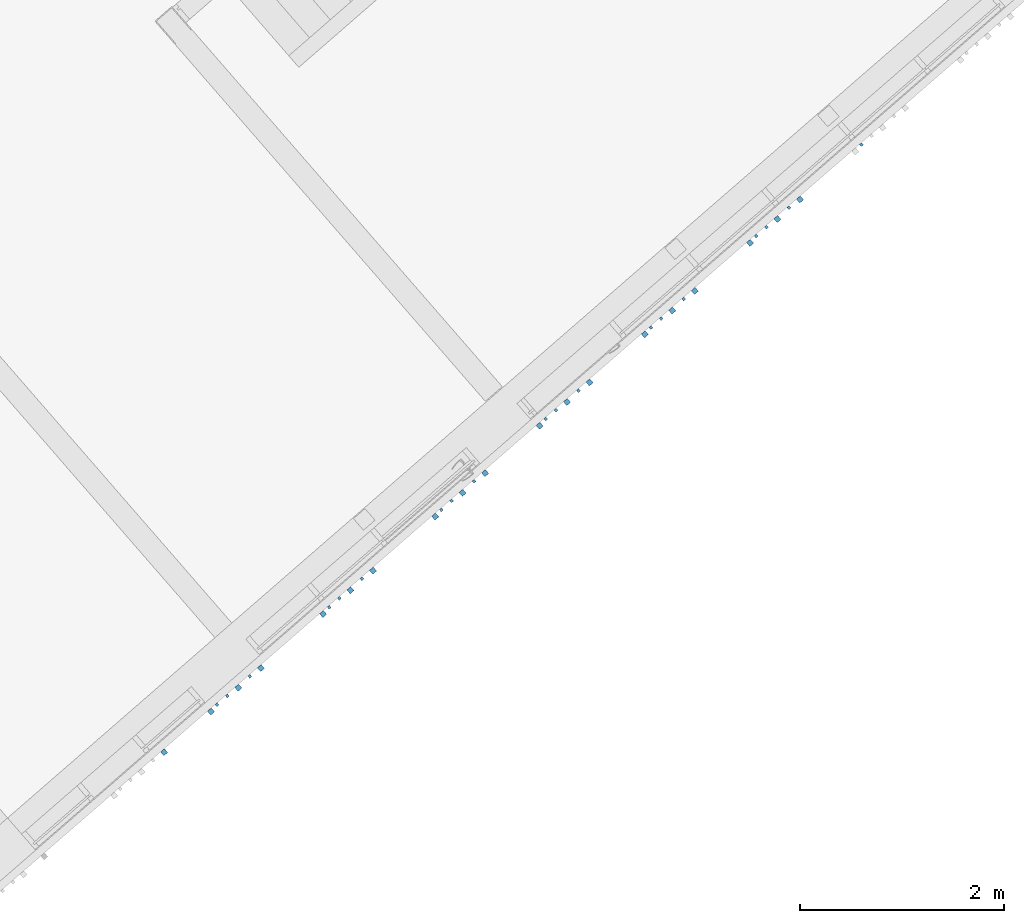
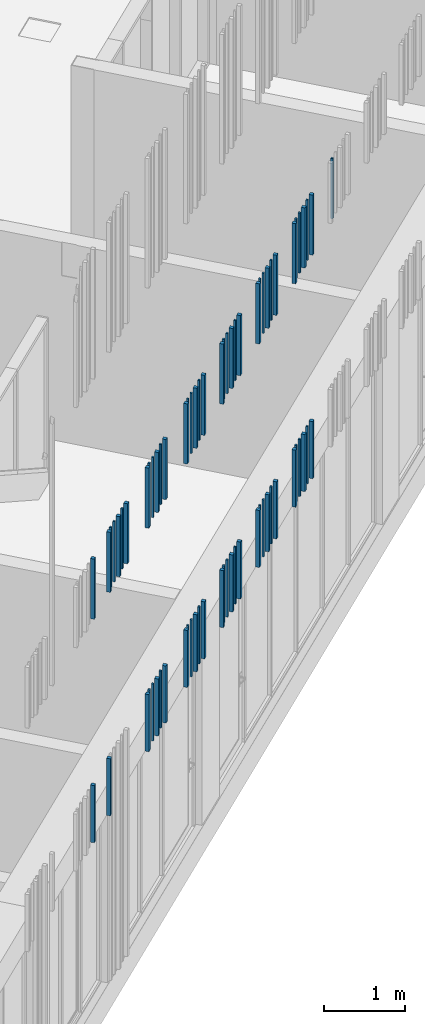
# One storey, part 96 of 124: 70 walls.
"""IFC2X3 building model written with IfcOpenShell, lengths in millimetres."""

from ifc_helpers import new_model, entity, si_unit, converted_unit, derived_unit, money_unit, direction, frame, origin_with_axes, place, context, subcontext, project, spatial, faceted_brep, material, type_object, element, save


model = new_model("IFC2X3")

# Units and contexts
model_context = context("Model", 3, precision=1e-05, world=origin_with_axes(), true_north=direction((0.0, 1.0)))
body_context = subcontext(model_context, "Body", "Model", "MODEL_VIEW")
ifc_project = project(units=[si_unit("LENGTHUNIT", "METRE", prefix="MILLI"), si_unit("AREAUNIT", "SQUARE_METRE"), si_unit("VOLUMEUNIT", "CUBIC_METRE"), converted_unit("PLANEANGLEUNIT", "DEGREE", entity("IfcPlaneAngleMeasure", 0.0174532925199), si_unit("PLANEANGLEUNIT", "RADIAN"), dimensions=[0, 0, 0, 0, 0, 0, 0]), si_unit("SOLIDANGLEUNIT", "STERADIAN"), money_unit("EUR"), converted_unit("TIMEUNIT", "Year", entity("IfcTimeMeasure", 31556926.0), si_unit("TIMEUNIT", "SECOND"), dimensions=[0, 0, 1, 0, 0, 0, 0]), si_unit("MASSUNIT", "GRAM", prefix="KILO"), si_unit("THERMODYNAMICTEMPERATUREUNIT", "DEGREE_CELSIUS"), si_unit("LUMINOUSINTENSITYUNIT", "LUMEN"), si_unit("ENERGYUNIT", "JOULE", prefix="MEGA"), derived_unit("THERMALCONDUCTANCEUNIT", [(si_unit("POWERUNIT", "WATT"), 1), (si_unit("LENGTHUNIT", "METRE"), -1), (si_unit("THERMODYNAMICTEMPERATUREUNIT", "KELVIN"), -1)]), derived_unit("SPECIFICHEATCAPACITYUNIT", [(si_unit("ENERGYUNIT", "JOULE"), 1), (si_unit("MASSUNIT", "GRAM", prefix="KILO"), -1), (si_unit("THERMODYNAMICTEMPERATUREUNIT", "KELVIN"), -1)]), derived_unit("MASSDENSITYUNIT", [(si_unit("MASSUNIT", "GRAM", prefix="KILO"), 1), (si_unit("VOLUMEUNIT", "CUBIC_METRE"), -1)])], contexts=[model_context])

# Site, building, storey
site_placement = place(None, origin_with_axes())
site = spatial("IfcSite", under=ifc_project, at=site_placement, Name="Site", CompositionType="ELEMENT")
building_placement = place(site_placement, origin_with_axes())
building = spatial("IfcBuilding", under=site, at=building_placement, Name="Building", CompositionType="ELEMENT")
storey_placement = place(building_placement, frame((0.0, 0.0, -1615.0), z_axis=(0.0, 0.0, 1.0), x_axis=(1.0, 0.0, 0.0)))
storey = spatial("IfcBuildingStorey", under=building, at=storey_placement, Name="0  korrus", CompositionType="ELEMENT", Elevation=-1615.0)

# Walls
ifc_material = material(Name="Site specified")
wall_type = type_object("IfcWallType", Name="Puitfassaadi ribistik", PredefinedType="NOTDEFINED")
wall_1_placement = place(storey_placement, frame((161342.748186, 84898.3030388, 5915.0), z_axis=(0.0, 0.0, 1.0), x_axis=(-0.754709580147, -0.656059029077, 0.0)))
element("IfcWall", 1, at=wall_1_placement, inside=storey, type_object=wall_type, material=ifc_material, Name="Site specified", context=body_context, shape_type="Brep", body=[
    faceted_brep([(14.0, 14.0, 906.0), (14.0, 14.0, 0.0), (-14.0, 14.0, 0.0), (-14.0, 14.0, 906.0), (14.0, -14.0, 906.0), (14.0, -14.0, 0.0), (-14.0, -14.0, 0.0), (-14.0, -14.0, 906.0)], [[[0, 1, 2, 3]], [[4, 5, 1, 0]], [[2, 1, 5, 6]], [[3, 2, 6, 7]], [[4, 0, 3, 7]], [[7, 6, 5, 4]]]),
])
for number, where, z_axis, x_axis, name in (
    (2, (160517.522027, 84166.3697402, 5915.0), (0.0, 0.0, 1.0), (-0.754709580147, -0.656059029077, 0.0), "Site specified"),
    (3, (160248.841165, 83932.8090301, 5915.0), (0.0, 0.0, 1.0), (-0.754709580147, -0.656059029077, 0.0), "Site specified"),
):
    element("IfcWall", number, at=place(storey_placement, frame(where, z_axis=z_axis, x_axis=x_axis)), inside=storey, type_object=wall_type, material=ifc_material, Name=name, context=body_context, shape_type="Brep", body=[
        faceted_brep([(25.0, 25.0, 906.0), (25.0, 25.0, 0.0), (-25.0, 25.0, 0.0), (-25.0, 25.0, 906.0), (25.0, -25.0, 906.0), (25.0, -25.0, 0.0), (-25.0, -25.0, 0.0), (-25.0, -25.0, 906.0)], [[[0, 1, 2, 3]], [[4, 5, 1, 0]], [[2, 1, 5, 6]], [[3, 2, 6, 7]], [[4, 0, 3, 7]], [[7, 6, 5, 4]]]),
    ])
for number, where, z_axis, x_axis, name in (
    (4, (160409.172435, 84086.7580194, 5915.0), (0.0, 0.0, 1.0), (-0.754709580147, -0.656059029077, 0.0), "Site specified"),
    (5, (160308.796061, 83999.502169, 5915.0), (0.0, 0.0, 1.0), (-0.754709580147, -0.656059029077, 0.0), "Site specified"),
    (6, (160630.30232, 84278.9832959, 5915.0), (0.0, 0.0, 1.0), (-0.754709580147, -0.656059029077, 0.0), "Site specified"),
):
    element("IfcWall", number, at=place(storey_placement, frame(where, z_axis=z_axis, x_axis=x_axis)), inside=storey, type_object=wall_type, material=ifc_material, Name=name, context=body_context, shape_type="Brep", body=[
        faceted_brep([(14.0, 14.0, 906.0), (14.0, 14.0, 0.0), (-14.0, 14.0, 0.0), (-14.0, 14.0, 906.0), (14.0, -14.0, 906.0), (14.0, -14.0, 0.0), (-14.0, -14.0, 0.0), (-14.0, -14.0, 906.0)], [[[0, 1, 2, 3]], [[4, 5, 1, 0]], [[2, 1, 5, 6]], [[3, 2, 6, 7]], [[4, 0, 3, 7]], [[7, 6, 5, 4]]]),
    ])
for number, where, z_axis, x_axis, name in (
    (7, (160517.522027, 84166.3697402, 2550.00001878), (0.0, 0.0, 1.0), (-0.754709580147, -0.656059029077, 0.0), "Site specified"),
    (8, (160248.841165, 83932.8090301, 2550.00001878), (0.0, 0.0, 1.0), (-0.754709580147, -0.656059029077, 0.0), "Site specified"),
):
    element("IfcWall", number, at=place(storey_placement, frame(where, z_axis=z_axis, x_axis=x_axis)), inside=storey, type_object=wall_type, material=ifc_material, Name=name, context=body_context, shape_type="Brep", body=[
        faceted_brep([(25.0, 25.0, 860.0), (25.0, 25.0, 0.0), (-25.0, 25.0, 0.0), (-25.0, 25.0, 860.0), (25.0, -25.0, 860.0), (25.0, -25.0, 0.0), (-25.0, -25.0, 0.0), (-25.0, -25.0, 860.0)], [[[0, 1, 2, 3]], [[4, 5, 1, 0]], [[2, 1, 5, 6]], [[3, 2, 6, 7]], [[4, 0, 3, 7]], [[7, 6, 5, 4]]]),
    ])
for number, where, z_axis, x_axis, name in (
    (9, (160409.172435, 84086.7580194, 2550.00001878), (0.0, 0.0, 1.0), (-0.754709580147, -0.656059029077, 0.0), "Site specified"),
    (10, (160308.796061, 83999.502169, 2550.00001878), (0.0, 0.0, 1.0), (-0.754709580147, -0.656059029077, 0.0), "Site specified"),
    (11, (160630.30232, 84278.9832959, 2550.00001878), (0.0, 0.0, 1.0), (-0.754709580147, -0.656059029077, 0.0), "Site specified"),
):
    element("IfcWall", number, at=place(storey_placement, frame(where, z_axis=z_axis, x_axis=x_axis)), inside=storey, type_object=wall_type, material=ifc_material, Name=name, context=body_context, shape_type="Brep", body=[
        faceted_brep([(14.0, 14.0, 860.0), (14.0, 14.0, 0.0), (-14.0, 14.0, 0.0), (-14.0, 14.0, 860.0), (14.0, -14.0, 860.0), (14.0, -14.0, 0.0), (-14.0, -14.0, 0.0), (-14.0, -14.0, 860.0)], [[[0, 1, 2, 3]], [[4, 5, 1, 0]], [[2, 1, 5, 6]], [[3, 2, 6, 7]], [[4, 0, 3, 7]], [[7, 6, 5, 4]]]),
    ])
wall_2_placement = place(storey_placement, frame((160739.406642, 84359.2510933, 2550.00001878), z_axis=(0.0, 0.0, 1.0), x_axis=(-0.754709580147, -0.656059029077, 0.0)))
element("IfcWall", 12, at=wall_2_placement, inside=storey, type_object=wall_type, material=ifc_material, Name="Site specified", context=body_context, shape_type="Brep", body=[
    faceted_brep([(25.0, 25.0, 860.0), (25.0, 25.0, 0.0), (-25.0, 25.0, 0.0), (-25.0, 25.0, 860.0), (25.0, -25.0, 860.0), (25.0, -25.0, 0.0), (-25.0, -25.0, 0.0), (-25.0, -25.0, 860.0)], [[[0, 1, 2, 3]], [[4, 5, 1, 0]], [[2, 1, 5, 6]], [[3, 2, 6, 7]], [[4, 0, 3, 7]], [[7, 6, 5, 4]]]),
])
for number, where, z_axis, x_axis, name in (
    (13, (160739.406642, 84359.2510933, 5915.0), (0.0, 0.0, 1.0), (-0.754709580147, -0.656059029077, 0.0), "Site specified"),
    (14, (159214.88904, 83034.0081603, 5915.0), (0.0, 0.0, 1.0), (-0.754709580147, -0.656059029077, 0.0), "Site specified"),
):
    element("IfcWall", number, at=place(storey_placement, frame(where, z_axis=z_axis, x_axis=x_axis)), inside=storey, type_object=wall_type, material=ifc_material, Name=name, context=body_context, shape_type="Brep", body=[
        faceted_brep([(25.0, 25.0, 906.0), (25.0, 25.0, 0.0), (-25.0, 25.0, 0.0), (-25.0, 25.0, 906.0), (25.0, -25.0, 906.0), (25.0, -25.0, 0.0), (-25.0, -25.0, 0.0), (-25.0, -25.0, 906.0)], [[[0, 1, 2, 3]], [[4, 5, 1, 0]], [[2, 1, 5, 6]], [[3, 2, 6, 7]], [[4, 0, 3, 7]], [[7, 6, 5, 4]]]),
    ])
for number, where, z_axis, x_axis, name in (
    (15, (159375.22031, 83187.9571495, 5915.0), (0.0, 0.0, 1.0), (-0.754709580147, -0.656059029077, 0.0), "Site specified"),
    (16, (159274.843936, 83100.7012992, 5915.0), (0.0, 0.0, 1.0), (-0.754709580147, -0.656059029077, 0.0), "Site specified"),
    (17, (159596.350195, 83380.1824261, 5915.0), (0.0, 0.0, 1.0), (-0.754709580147, -0.656059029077, 0.0), "Site specified"),
):
    element("IfcWall", number, at=place(storey_placement, frame(where, z_axis=z_axis, x_axis=x_axis)), inside=storey, type_object=wall_type, material=ifc_material, Name=name, context=body_context, shape_type="Brep", body=[
        faceted_brep([(14.0, 14.0, 906.0), (14.0, 14.0, 0.0), (-14.0, 14.0, 0.0), (-14.0, 14.0, 906.0), (14.0, -14.0, 906.0), (14.0, -14.0, 0.0), (-14.0, -14.0, 0.0), (-14.0, -14.0, 906.0)], [[[0, 1, 2, 3]], [[4, 5, 1, 0]], [[2, 1, 5, 6]], [[3, 2, 6, 7]], [[4, 0, 3, 7]], [[7, 6, 5, 4]]]),
    ])
wall_3_placement = place(storey_placement, frame((159705.454517, 83460.4502235, 5915.0), z_axis=(0.0, 0.0, 1.0), x_axis=(-0.754709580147, -0.656059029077, 0.0)))
element("IfcWall", 18, at=wall_3_placement, inside=storey, type_object=wall_type, material=ifc_material, Name="Site specified", context=body_context, shape_type="Brep", body=[
    faceted_brep([(25.0, 25.0, 906.0), (25.0, 25.0, 0.0), (-25.0, 25.0, 0.0), (-25.0, 25.0, 906.0), (25.0, -25.0, 906.0), (25.0, -25.0, 0.0), (-25.0, -25.0, 0.0), (-25.0, -25.0, 906.0)], [[[0, 1, 2, 3]], [[4, 5, 1, 0]], [[2, 1, 5, 6]], [[3, 2, 6, 7]], [[4, 0, 3, 7]], [[7, 6, 5, 4]]]),
])
wall_4_placement = place(storey_placement, frame((159483.569902, 83267.5688704, 2550.00001878), z_axis=(0.0, 0.0, 1.0), x_axis=(-0.754709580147, -0.656059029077, 0.0)))
element("IfcWall", 19, at=wall_4_placement, inside=storey, type_object=wall_type, material=ifc_material, Name="Site specified", context=body_context, shape_type="Brep", body=[
    faceted_brep([(25.0, 25.0, 860.0), (25.0, 25.0, 0.0), (-25.0, 25.0, 0.0), (-25.0, 25.0, 860.0), (25.0, -25.0, 860.0), (25.0, -25.0, 0.0), (-25.0, -25.0, 0.0), (-25.0, -25.0, 860.0)], [[[0, 1, 2, 3]], [[4, 5, 1, 0]], [[2, 1, 5, 6]], [[3, 2, 6, 7]], [[4, 0, 3, 7]], [[7, 6, 5, 4]]]),
])
for number, where, z_axis, x_axis, name in (
    (20, (156434.117052, 80631.2950921, 2550.00001878), (0.0, 0.0, 1.0), (-0.754709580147, -0.656059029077, 0.0), "Site specified"),
    (21, (156112.610793, 80351.8139652, 2550.00001878), (0.0, 0.0, 1.0), (-0.754709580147, -0.656059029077, 0.0), "Site specified"),
    (22, (156212.987166, 80439.0698155, 2550.00001878), (0.0, 0.0, 1.0), (-0.754709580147, -0.656059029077, 0.0), "Site specified"),
):
    element("IfcWall", number, at=place(storey_placement, frame(where, z_axis=z_axis, x_axis=x_axis)), inside=storey, type_object=wall_type, material=ifc_material, Name=name, context=body_context, shape_type="Brep", body=[
        faceted_brep([(14.0, 14.0, 860.0), (14.0, 14.0, 0.0), (-14.0, 14.0, 0.0), (-14.0, 14.0, 860.0), (14.0, -14.0, 860.0), (14.0, -14.0, 0.0), (-14.0, -14.0, 0.0), (-14.0, -14.0, 860.0)], [[[0, 1, 2, 3]], [[4, 5, 1, 0]], [[2, 1, 5, 6]], [[3, 2, 6, 7]], [[4, 0, 3, 7]], [[7, 6, 5, 4]]]),
    ])
for number, where, z_axis, x_axis, name in (
    (23, (156052.655897, 80285.1208262, 2550.00001878), (0.0, 0.0, 1.0), (-0.754709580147, -0.656059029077, 0.0), "Site specified"),
    (24, (156321.336759, 80518.6815364, 2550.00001878), (0.0, 0.0, 1.0), (-0.754709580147, -0.656059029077, 0.0), "Site specified"),
):
    element("IfcWall", number, at=place(storey_placement, frame(where, z_axis=z_axis, x_axis=x_axis)), inside=storey, type_object=wall_type, material=ifc_material, Name=name, context=body_context, shape_type="Brep", body=[
        faceted_brep([(25.0, 25.0, 860.0), (25.0, 25.0, 0.0), (-25.0, 25.0, 0.0), (-25.0, 25.0, 860.0), (25.0, -25.0, 860.0), (25.0, -25.0, 0.0), (-25.0, -25.0, 0.0), (-25.0, -25.0, 860.0)], [[[0, 1, 2, 3]], [[4, 5, 1, 0]], [[2, 1, 5, 6]], [[3, 2, 6, 7]], [[4, 0, 3, 7]], [[7, 6, 5, 4]]]),
    ])
wall_5_placement = place(storey_placement, frame((156543.221374, 80711.5628895, 5915.0), z_axis=(0.0, 0.0, 1.0), x_axis=(-0.754709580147, -0.656059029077, 0.0)))
element("IfcWall", 25, at=wall_5_placement, inside=storey, type_object=wall_type, material=ifc_material, Name="Site specified", context=body_context, shape_type="Brep", body=[
    faceted_brep([(25.0, 25.0, 906.0), (25.0, 25.0, 0.0), (-25.0, 25.0, 0.0), (-25.0, 25.0, 906.0), (25.0, -25.0, 906.0), (25.0, -25.0, 0.0), (-25.0, -25.0, 0.0), (-25.0, -25.0, 906.0)], [[[0, 1, 2, 3]], [[4, 5, 1, 0]], [[2, 1, 5, 6]], [[3, 2, 6, 7]], [[4, 0, 3, 7]], [[7, 6, 5, 4]]]),
])
for number, where, z_axis, x_axis, name in (
    (26, (156434.117052, 80631.2950921, 5915.0), (0.0, 0.0, 1.0), (-0.754709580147, -0.656059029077, 0.0), "Site specified"),
    (27, (156112.610793, 80351.8139652, 5915.0), (0.0, 0.0, 1.0), (-0.754709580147, -0.656059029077, 0.0), "Site specified"),
    (28, (156212.987166, 80439.0698155, 5915.0), (0.0, 0.0, 1.0), (-0.754709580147, -0.656059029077, 0.0), "Site specified"),
):
    element("IfcWall", number, at=place(storey_placement, frame(where, z_axis=z_axis, x_axis=x_axis)), inside=storey, type_object=wall_type, material=ifc_material, Name=name, context=body_context, shape_type="Brep", body=[
        faceted_brep([(14.0, 14.0, 906.0), (14.0, 14.0, 0.0), (-14.0, 14.0, 0.0), (-14.0, 14.0, 906.0), (14.0, -14.0, 906.0), (14.0, -14.0, 0.0), (-14.0, -14.0, 0.0), (-14.0, -14.0, 906.0)], [[[0, 1, 2, 3]], [[4, 5, 1, 0]], [[2, 1, 5, 6]], [[3, 2, 6, 7]], [[4, 0, 3, 7]], [[7, 6, 5, 4]]]),
    ])
for number, where, z_axis, x_axis, name in (
    (29, (156052.655897, 80285.1208262, 5915.0), (0.0, 0.0, 1.0), (-0.754709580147, -0.656059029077, 0.0), "Site specified"),
    (30, (156321.336759, 80518.6815364, 5915.0), (0.0, 0.0, 1.0), (-0.754709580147, -0.656059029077, 0.0), "Site specified"),
):
    element("IfcWall", number, at=place(storey_placement, frame(where, z_axis=z_axis, x_axis=x_axis)), inside=storey, type_object=wall_type, material=ifc_material, Name=name, context=body_context, shape_type="Brep", body=[
        faceted_brep([(25.0, 25.0, 906.0), (25.0, 25.0, 0.0), (-25.0, 25.0, 0.0), (-25.0, 25.0, 906.0), (25.0, -25.0, 906.0), (25.0, -25.0, 0.0), (-25.0, -25.0, 0.0), (-25.0, -25.0, 906.0)], [[[0, 1, 2, 3]], [[4, 5, 1, 0]], [[2, 1, 5, 6]], [[3, 2, 6, 7]], [[4, 0, 3, 7]], [[7, 6, 5, 4]]]),
    ])
for number, where, z_axis, x_axis, name in (
    (31, (157645.097363, 81669.4090742, 2550.00001878), (0.0, 0.0, 1.0), (-0.754709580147, -0.656059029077, 0.0), "Site specified"),
    (32, (157154.531886, 81242.967011, 2550.00001878), (0.0, 0.0, 1.0), (-0.754709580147, -0.656059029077, 0.0), "Site specified"),
):
    element("IfcWall", number, at=place(storey_placement, frame(where, z_axis=z_axis, x_axis=x_axis)), inside=storey, type_object=wall_type, material=ifc_material, Name=name, context=body_context, shape_type="Brep", body=[
        faceted_brep([(25.0, 25.0, 860.0), (25.0, 25.0, 0.0), (-25.0, 25.0, 0.0), (-25.0, 25.0, 860.0), (25.0, -25.0, 860.0), (25.0, -25.0, 0.0), (-25.0, -25.0, 0.0), (-25.0, -25.0, 860.0)], [[[0, 1, 2, 3]], [[4, 5, 1, 0]], [[2, 1, 5, 6]], [[3, 2, 6, 7]], [[4, 0, 3, 7]], [[7, 6, 5, 4]]]),
    ])
for number, where, z_axis, x_axis, name in (
    (33, (157535.993041, 81589.1412768, 2550.00001878), (0.0, 0.0, 1.0), (-0.754709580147, -0.656059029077, 0.0), "Site specified"),
    (34, (157314.863156, 81396.9160002, 2550.00001878), (0.0, 0.0, 1.0), (-0.754709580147, -0.656059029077, 0.0), "Site specified"),
    (35, (157214.486783, 81309.6601499, 2550.00001878), (0.0, 0.0, 1.0), (-0.754709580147, -0.656059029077, 0.0), "Site specified"),
):
    element("IfcWall", number, at=place(storey_placement, frame(where, z_axis=z_axis, x_axis=x_axis)), inside=storey, type_object=wall_type, material=ifc_material, Name=name, context=body_context, shape_type="Brep", body=[
        faceted_brep([(14.0, 14.0, 860.0), (14.0, 14.0, 0.0), (-14.0, 14.0, 0.0), (-14.0, 14.0, 860.0), (14.0, -14.0, 860.0), (14.0, -14.0, 0.0), (-14.0, -14.0, 0.0), (-14.0, -14.0, 860.0)], [[[0, 1, 2, 3]], [[4, 5, 1, 0]], [[2, 1, 5, 6]], [[3, 2, 6, 7]], [[4, 0, 3, 7]], [[7, 6, 5, 4]]]),
    ])
wall_6_placement = place(storey_placement, frame((157423.212749, 81476.5277211, 2550.00001878), z_axis=(0.0, 0.0, 1.0), x_axis=(-0.754709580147, -0.656059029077, 0.0)))
element("IfcWall", 36, at=wall_6_placement, inside=storey, type_object=wall_type, material=ifc_material, Name="Site specified", context=body_context, shape_type="Brep", body=[
    faceted_brep([(25.0, 25.0, 860.0), (25.0, 25.0, 0.0), (-25.0, 25.0, 0.0), (-25.0, 25.0, 860.0), (25.0, -25.0, 860.0), (25.0, -25.0, 0.0), (-25.0, -25.0, 0.0), (-25.0, -25.0, 860.0)], [[[0, 1, 2, 3]], [[4, 5, 1, 0]], [[2, 1, 5, 6]], [[3, 2, 6, 7]], [[4, 0, 3, 7]], [[7, 6, 5, 4]]]),
])
wall_7_placement = place(storey_placement, frame((157645.097363, 81669.4090742, 5915.0), z_axis=(0.0, 0.0, 1.0), x_axis=(-0.754709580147, -0.656059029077, 0.0)))
element("IfcWall", 37, at=wall_7_placement, inside=storey, type_object=wall_type, material=ifc_material, Name="Site specified", context=body_context, shape_type="Brep", body=[
    faceted_brep([(25.0, 25.0, 906.0), (25.0, 25.0, 0.0), (-25.0, 25.0, 0.0), (-25.0, 25.0, 906.0), (25.0, -25.0, 906.0), (25.0, -25.0, 0.0), (-25.0, -25.0, 0.0), (-25.0, -25.0, 906.0)], [[[0, 1, 2, 3]], [[4, 5, 1, 0]], [[2, 1, 5, 6]], [[3, 2, 6, 7]], [[4, 0, 3, 7]], [[7, 6, 5, 4]]]),
])
for number, where, z_axis, x_axis, name in (
    (38, (157535.993041, 81589.1412768, 5915.0), (0.0, 0.0, 1.0), (-0.754709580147, -0.656059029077, 0.0), "Site specified"),
    (39, (157214.486783, 81309.6601499, 5915.0), (0.0, 0.0, 1.0), (-0.754709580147, -0.656059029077, 0.0), "Site specified"),
    (40, (157314.863156, 81396.9160002, 5915.0), (0.0, 0.0, 1.0), (-0.754709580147, -0.656059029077, 0.0), "Site specified"),
):
    element("IfcWall", number, at=place(storey_placement, frame(where, z_axis=z_axis, x_axis=x_axis)), inside=storey, type_object=wall_type, material=ifc_material, Name=name, context=body_context, shape_type="Brep", body=[
        faceted_brep([(14.0, 14.0, 906.0), (14.0, 14.0, 0.0), (-14.0, 14.0, 0.0), (-14.0, 14.0, 906.0), (14.0, -14.0, 906.0), (14.0, -14.0, 0.0), (-14.0, -14.0, 0.0), (-14.0, -14.0, 906.0)], [[[0, 1, 2, 3]], [[4, 5, 1, 0]], [[2, 1, 5, 6]], [[3, 2, 6, 7]], [[4, 0, 3, 7]], [[7, 6, 5, 4]]]),
    ])
for number, where, z_axis, x_axis, name in (
    (41, (157154.531886, 81242.967011, 5915.0), (0.0, 0.0, 1.0), (-0.754709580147, -0.656059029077, 0.0), "Site specified"),
    (42, (157423.212749, 81476.5277211, 5915.0), (0.0, 0.0, 1.0), (-0.754709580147, -0.656059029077, 0.0), "Site specified"),
):
    element("IfcWall", number, at=place(storey_placement, frame(where, z_axis=z_axis, x_axis=x_axis)), inside=storey, type_object=wall_type, material=ifc_material, Name=name, context=body_context, shape_type="Brep", body=[
        faceted_brep([(25.0, 25.0, 906.0), (25.0, 25.0, 0.0), (-25.0, 25.0, 0.0), (-25.0, 25.0, 906.0), (25.0, -25.0, 906.0), (25.0, -25.0, 0.0), (-25.0, -25.0, 0.0), (-25.0, -25.0, 906.0)], [[[0, 1, 2, 3]], [[4, 5, 1, 0]], [[2, 1, 5, 6]], [[3, 2, 6, 7]], [[4, 0, 3, 7]], [[7, 6, 5, 4]]]),
    ])
wall_8_placement = place(storey_placement, frame((158671.502392, 82561.6493537, 2550.00001878), z_axis=(0.0, 0.0, 1.0), x_axis=(-0.754709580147, -0.656059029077, 0.0)))
element("IfcWall", 43, at=wall_8_placement, inside=storey, type_object=wall_type, material=ifc_material, Name="Site specified", context=body_context, shape_type="Brep", body=[
    faceted_brep([(25.0, 25.0, 860.0), (25.0, 25.0, 0.0), (-25.0, 25.0, 0.0), (-25.0, 25.0, 860.0), (25.0, -25.0, 860.0), (25.0, -25.0, 0.0), (-25.0, -25.0, 0.0), (-25.0, -25.0, 860.0)], [[[0, 1, 2, 3]], [[4, 5, 1, 0]], [[2, 1, 5, 6]], [[3, 2, 6, 7]], [[4, 0, 3, 7]], [[7, 6, 5, 4]]]),
])
wall_9_placement = place(storey_placement, frame((158562.39807, 82481.3815563, 5915.0), z_axis=(0.0, 0.0, 1.0), x_axis=(-0.754709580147, -0.656059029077, 0.0)))
element("IfcWall", 44, at=wall_9_placement, inside=storey, type_object=wall_type, material=ifc_material, Name="Site specified", context=body_context, shape_type="Brep", body=[
    faceted_brep([(14.0, 14.0, 906.0), (14.0, 14.0, 0.0), (-14.0, 14.0, 0.0), (-14.0, 14.0, 906.0), (14.0, -14.0, 906.0), (14.0, -14.0, 0.0), (-14.0, -14.0, 0.0), (-14.0, -14.0, 906.0)], [[[0, 1, 2, 3]], [[4, 5, 1, 0]], [[2, 1, 5, 6]], [[3, 2, 6, 7]], [[4, 0, 3, 7]], [[7, 6, 5, 4]]]),
])
for number, where, z_axis, x_axis, name in (
    (45, (158562.39807, 82481.3815563, 2550.00001878), (0.0, 0.0, 1.0), (-0.754709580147, -0.656059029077, 0.0), "Site specified"),
    (46, (158240.891812, 82201.9004294, 2550.00001878), (0.0, 0.0, 1.0), (-0.754709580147, -0.656059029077, 0.0), "Site specified"),
    (47, (158341.268185, 82289.1562797, 2550.00001878), (0.0, 0.0, 1.0), (-0.754709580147, -0.656059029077, 0.0), "Site specified"),
):
    element("IfcWall", number, at=place(storey_placement, frame(where, z_axis=z_axis, x_axis=x_axis)), inside=storey, type_object=wall_type, material=ifc_material, Name=name, context=body_context, shape_type="Brep", body=[
        faceted_brep([(14.0, 14.0, 860.0), (14.0, 14.0, 0.0), (-14.0, 14.0, 0.0), (-14.0, 14.0, 860.0), (14.0, -14.0, 860.0), (14.0, -14.0, 0.0), (-14.0, -14.0, 0.0), (-14.0, -14.0, 860.0)], [[[0, 1, 2, 3]], [[4, 5, 1, 0]], [[2, 1, 5, 6]], [[3, 2, 6, 7]], [[4, 0, 3, 7]], [[7, 6, 5, 4]]]),
    ])
for number, where, z_axis, x_axis, name in (
    (48, (158180.936915, 82135.2072905, 2550.00001878), (0.0, 0.0, 1.0), (-0.754709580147, -0.656059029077, 0.0), "Site specified"),
    (49, (158449.617778, 82368.7680006, 2550.00001878), (0.0, 0.0, 1.0), (-0.754709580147, -0.656059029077, 0.0), "Site specified"),
):
    element("IfcWall", number, at=place(storey_placement, frame(where, z_axis=z_axis, x_axis=x_axis)), inside=storey, type_object=wall_type, material=ifc_material, Name=name, context=body_context, shape_type="Brep", body=[
        faceted_brep([(25.0, 25.0, 860.0), (25.0, 25.0, 0.0), (-25.0, 25.0, 0.0), (-25.0, 25.0, 860.0), (25.0, -25.0, 860.0), (25.0, -25.0, 0.0), (-25.0, -25.0, 0.0), (-25.0, -25.0, 860.0)], [[[0, 1, 2, 3]], [[4, 5, 1, 0]], [[2, 1, 5, 6]], [[3, 2, 6, 7]], [[4, 0, 3, 7]], [[7, 6, 5, 4]]]),
    ])
wall_10_placement = place(storey_placement, frame((158671.502392, 82561.6493537, 5915.0), z_axis=(0.0, 0.0, 1.0), x_axis=(-0.754709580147, -0.656059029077, 0.0)))
element("IfcWall", 50, at=wall_10_placement, inside=storey, type_object=wall_type, material=ifc_material, Name="Site specified", context=body_context, shape_type="Brep", body=[
    faceted_brep([(25.0, 25.0, 906.0), (25.0, 25.0, 0.0), (-25.0, 25.0, 0.0), (-25.0, 25.0, 906.0), (25.0, -25.0, 906.0), (25.0, -25.0, 0.0), (-25.0, -25.0, 0.0), (-25.0, -25.0, 906.0)], [[[0, 1, 2, 3]], [[4, 5, 1, 0]], [[2, 1, 5, 6]], [[3, 2, 6, 7]], [[4, 0, 3, 7]], [[7, 6, 5, 4]]]),
])
for number, where, z_axis, x_axis, name in (
    (51, (158240.891812, 82201.9004294, 5915.0), (0.0, 0.0, 1.0), (-0.754709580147, -0.656059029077, 0.0), "Site specified"),
    (52, (158341.268185, 82289.1562797, 5915.0), (0.0, 0.0, 1.0), (-0.754709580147, -0.656059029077, 0.0), "Site specified"),
):
    element("IfcWall", number, at=place(storey_placement, frame(where, z_axis=z_axis, x_axis=x_axis)), inside=storey, type_object=wall_type, material=ifc_material, Name=name, context=body_context, shape_type="Brep", body=[
        faceted_brep([(14.0, 14.0, 906.0), (14.0, 14.0, 0.0), (-14.0, 14.0, 0.0), (-14.0, 14.0, 906.0), (14.0, -14.0, 906.0), (14.0, -14.0, 0.0), (-14.0, -14.0, 0.0), (-14.0, -14.0, 906.0)], [[[0, 1, 2, 3]], [[4, 5, 1, 0]], [[2, 1, 5, 6]], [[3, 2, 6, 7]], [[4, 0, 3, 7]], [[7, 6, 5, 4]]]),
    ])
for number, where, z_axis, x_axis, name in (
    (53, (158180.936915, 82135.2072905, 5915.0), (0.0, 0.0, 1.0), (-0.754709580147, -0.656059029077, 0.0), "Site specified"),
    (54, (158449.617778, 82368.7680006, 5915.0), (0.0, 0.0, 1.0), (-0.754709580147, -0.656059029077, 0.0), "Site specified"),
):
    element("IfcWall", number, at=place(storey_placement, frame(where, z_axis=z_axis, x_axis=x_axis)), inside=storey, type_object=wall_type, material=ifc_material, Name=name, context=body_context, shape_type="Brep", body=[
        faceted_brep([(25.0, 25.0, 906.0), (25.0, 25.0, 0.0), (-25.0, 25.0, 0.0), (-25.0, 25.0, 906.0), (25.0, -25.0, 906.0), (25.0, -25.0, 0.0), (-25.0, -25.0, 0.0), (-25.0, -25.0, 906.0)], [[[0, 1, 2, 3]], [[4, 5, 1, 0]], [[2, 1, 5, 6]], [[3, 2, 6, 7]], [[4, 0, 3, 7]], [[7, 6, 5, 4]]]),
    ])
wall_11_placement = place(storey_placement, frame((159375.22031, 83187.9571495, 2550.00001878), z_axis=(0.0, 0.0, 1.0), x_axis=(-0.754709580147, -0.656059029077, 0.0)))
element("IfcWall", 55, at=wall_11_placement, inside=storey, type_object=wall_type, material=ifc_material, Name="Site specified", context=body_context, shape_type="Brep", body=[
    faceted_brep([(14.0, 14.0, 860.0), (14.0, 14.0, 0.0), (-14.0, 14.0, 0.0), (-14.0, 14.0, 860.0), (14.0, -14.0, 860.0), (14.0, -14.0, 0.0), (-14.0, -14.0, 0.0), (-14.0, -14.0, 860.0)], [[[0, 1, 2, 3]], [[4, 5, 1, 0]], [[2, 1, 5, 6]], [[3, 2, 6, 7]], [[4, 0, 3, 7]], [[7, 6, 5, 4]]]),
])
wall_12_placement = place(storey_placement, frame((159705.454517, 83460.4502235, 2550.00001878), z_axis=(0.0, 0.0, 1.0), x_axis=(-0.754709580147, -0.656059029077, 0.0)))
element("IfcWall", 56, at=wall_12_placement, inside=storey, type_object=wall_type, material=ifc_material, Name="Site specified", context=body_context, shape_type="Brep", body=[
    faceted_brep([(25.0, 25.0, 860.0), (25.0, 25.0, 0.0), (-25.0, 25.0, 0.0), (-25.0, 25.0, 860.0), (25.0, -25.0, 860.0), (25.0, -25.0, 0.0), (-25.0, -25.0, 0.0), (-25.0, -25.0, 860.0)], [[[0, 1, 2, 3]], [[4, 5, 1, 0]], [[2, 1, 5, 6]], [[3, 2, 6, 7]], [[4, 0, 3, 7]], [[7, 6, 5, 4]]]),
])
for number, where, z_axis, x_axis, name in (
    (57, (159596.350195, 83380.1824261, 2550.00001878), (0.0, 0.0, 1.0), (-0.754709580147, -0.656059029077, 0.0), "Site specified"),
    (58, (159274.843936, 83100.7012992, 2550.00001878), (0.0, 0.0, 1.0), (-0.754709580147, -0.656059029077, 0.0), "Site specified"),
):
    element("IfcWall", number, at=place(storey_placement, frame(where, z_axis=z_axis, x_axis=x_axis)), inside=storey, type_object=wall_type, material=ifc_material, Name=name, context=body_context, shape_type="Brep", body=[
        faceted_brep([(14.0, 14.0, 860.0), (14.0, 14.0, 0.0), (-14.0, 14.0, 0.0), (-14.0, 14.0, 860.0), (14.0, -14.0, 860.0), (14.0, -14.0, 0.0), (-14.0, -14.0, 0.0), (-14.0, -14.0, 860.0)], [[[0, 1, 2, 3]], [[4, 5, 1, 0]], [[2, 1, 5, 6]], [[3, 2, 6, 7]], [[4, 0, 3, 7]], [[7, 6, 5, 4]]]),
    ])
wall_13_placement = place(storey_placement, frame((159214.88904, 83034.0081603, 2550.00001878), z_axis=(0.0, 0.0, 1.0), x_axis=(-0.754709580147, -0.656059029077, 0.0)))
element("IfcWall", 59, at=wall_13_placement, inside=storey, type_object=wall_type, material=ifc_material, Name="Site specified", context=body_context, shape_type="Brep", body=[
    faceted_brep([(25.0, 25.0, 860.0), (25.0, 25.0, 0.0), (-25.0, 25.0, 0.0), (-25.0, 25.0, 860.0), (25.0, -25.0, 860.0), (25.0, -25.0, 0.0), (-25.0, -25.0, 0.0), (-25.0, -25.0, 860.0)], [[[0, 1, 2, 3]], [[4, 5, 1, 0]], [[2, 1, 5, 6]], [[3, 2, 6, 7]], [[4, 0, 3, 7]], [[7, 6, 5, 4]]]),
])
wall_14_placement = place(storey_placement, frame((159483.569902, 83267.5688704, 5915.0), z_axis=(0.0, 0.0, 1.0), x_axis=(-0.754709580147, -0.656059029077, 0.0)))
element("IfcWall", 60, at=wall_14_placement, inside=storey, type_object=wall_type, material=ifc_material, Name="Site specified", context=body_context, shape_type="Brep", body=[
    faceted_brep([(25.0, 25.0, 906.0), (25.0, 25.0, 0.0), (-25.0, 25.0, 0.0), (-25.0, 25.0, 906.0), (25.0, -25.0, 906.0), (25.0, -25.0, 0.0), (-25.0, -25.0, 0.0), (-25.0, -25.0, 906.0)], [[[0, 1, 2, 3]], [[4, 5, 1, 0]], [[2, 1, 5, 6]], [[3, 2, 6, 7]], [[4, 0, 3, 7]], [[7, 6, 5, 4]]]),
])
wall_15_placement = place(storey_placement, frame((154490.4129, 78927.0837075, 2550.00001878), z_axis=(0.0, 0.0, 1.0), x_axis=(-0.754709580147, -0.656059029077, 0.0)))
element("IfcWall", 61, at=wall_15_placement, inside=storey, type_object=wall_type, material=ifc_material, Name="Site specified", context=body_context, shape_type="Brep", body=[
    faceted_brep([(25.0, 25.0, 860.0), (25.0, 25.0, 0.0), (-25.0, 25.0, 0.0), (-25.0, 25.0, 860.0), (25.0, -25.0, 860.0), (25.0, -25.0, 0.0), (-25.0, -25.0, 0.0), (-25.0, -25.0, 860.0)], [[[0, 1, 2, 3]], [[4, 5, 1, 0]], [[2, 1, 5, 6]], [[3, 2, 6, 7]], [[4, 0, 3, 7]], [[7, 6, 5, 4]]]),
])
wall_16_placement = place(storey_placement, frame((154490.4129, 78927.0837075, 5915.0), z_axis=(0.0, 0.0, 1.0), x_axis=(-0.754709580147, -0.656059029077, 0.0)))
element("IfcWall", 62, at=wall_16_placement, inside=storey, type_object=wall_type, material=ifc_material, Name="Site specified", context=body_context, shape_type="Brep", body=[
    faceted_brep([(25.0, 25.0, 906.0), (25.0, 25.0, 0.0), (-25.0, 25.0, 0.0), (-25.0, 25.0, 906.0), (25.0, -25.0, 906.0), (25.0, -25.0, 0.0), (-25.0, -25.0, 0.0), (-25.0, -25.0, 906.0)], [[[0, 1, 2, 3]], [[4, 5, 1, 0]], [[2, 1, 5, 6]], [[3, 2, 6, 7]], [[4, 0, 3, 7]], [[7, 6, 5, 4]]]),
])
wall_17_placement = place(storey_placement, frame((154950.779907, 79327.2746415, 2550.00001878), z_axis=(0.0, 0.0, 1.0), x_axis=(-0.754709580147, -0.656059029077, 0.0)))
element("IfcWall", 63, at=wall_17_placement, inside=storey, type_object=wall_type, material=ifc_material, Name="Site specified", context=body_context, shape_type="Brep", body=[
    faceted_brep([(25.0, 25.0, 860.0), (25.0, 25.0, 0.0), (-25.0, 25.0, 0.0), (-25.0, 25.0, 860.0), (25.0, -25.0, 860.0), (25.0, -25.0, 0.0), (-25.0, -25.0, 0.0), (-25.0, -25.0, 860.0)], [[[0, 1, 2, 3]], [[4, 5, 1, 0]], [[2, 1, 5, 6]], [[3, 2, 6, 7]], [[4, 0, 3, 7]], [[7, 6, 5, 4]]]),
])
wall_18_placement = place(storey_placement, frame((155441.345384, 79753.7167048, 5915.0), z_axis=(0.0, 0.0, 1.0), x_axis=(-0.754709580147, -0.656059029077, 0.0)))
element("IfcWall", 64, at=wall_18_placement, inside=storey, type_object=wall_type, material=ifc_material, Name="Site specified", context=body_context, shape_type="Brep", body=[
    faceted_brep([(25.0, 25.0, 906.0), (25.0, 25.0, 0.0), (-25.0, 25.0, 0.0), (-25.0, 25.0, 906.0), (25.0, -25.0, 906.0), (25.0, -25.0, 0.0), (-25.0, -25.0, 0.0), (-25.0, -25.0, 906.0)], [[[0, 1, 2, 3]], [[4, 5, 1, 0]], [[2, 1, 5, 6]], [[3, 2, 6, 7]], [[4, 0, 3, 7]], [[7, 6, 5, 4]]]),
])
for number, where, z_axis, x_axis, name in (
    (65, (155332.241062, 79673.4489073, 5915.0), (0.0, 0.0, 1.0), (-0.754709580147, -0.656059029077, 0.0), "Site specified"),
    (66, (155010.734803, 79393.9677805, 5915.0), (0.0, 0.0, 1.0), (-0.754709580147, -0.656059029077, 0.0), "Site specified"),
    (67, (155111.111177, 79481.2236308, 5915.0), (0.0, 0.0, 1.0), (-0.754709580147, -0.656059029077, 0.0), "Site specified"),
):
    element("IfcWall", number, at=place(storey_placement, frame(where, z_axis=z_axis, x_axis=x_axis)), inside=storey, type_object=wall_type, material=ifc_material, Name=name, context=body_context, shape_type="Brep", body=[
        faceted_brep([(14.0, 14.0, 906.0), (14.0, 14.0, 0.0), (-14.0, 14.0, 0.0), (-14.0, 14.0, 906.0), (14.0, -14.0, 906.0), (14.0, -14.0, 0.0), (-14.0, -14.0, 0.0), (-14.0, -14.0, 906.0)], [[[0, 1, 2, 3]], [[4, 5, 1, 0]], [[2, 1, 5, 6]], [[3, 2, 6, 7]], [[4, 0, 3, 7]], [[7, 6, 5, 4]]]),
    ])
for number, where, z_axis, x_axis, name in (
    (68, (154950.779907, 79327.2746415, 5915.0), (0.0, 0.0, 1.0), (-0.754709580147, -0.656059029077, 0.0), "Site specified"),
    (69, (155219.460769, 79560.8353517, 5915.0), (0.0, 0.0, 1.0), (-0.754709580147, -0.656059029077, 0.0), "Site specified"),
):
    element("IfcWall", number, at=place(storey_placement, frame(where, z_axis=z_axis, x_axis=x_axis)), inside=storey, type_object=wall_type, material=ifc_material, Name=name, context=body_context, shape_type="Brep", body=[
        faceted_brep([(25.0, 25.0, 906.0), (25.0, 25.0, 0.0), (-25.0, 25.0, 0.0), (-25.0, 25.0, 906.0), (25.0, -25.0, 906.0), (25.0, -25.0, 0.0), (-25.0, -25.0, 0.0), (-25.0, -25.0, 906.0)], [[[0, 1, 2, 3]], [[4, 5, 1, 0]], [[2, 1, 5, 6]], [[3, 2, 6, 7]], [[4, 0, 3, 7]], [[7, 6, 5, 4]]]),
    ])
wall_19_placement = place(storey_placement, frame((156543.221374, 80711.5628895, 2550.00001878), z_axis=(0.0, 0.0, 1.0), x_axis=(-0.754709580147, -0.656059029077, 0.0)))
element("IfcWall", 70, at=wall_19_placement, inside=storey, type_object=wall_type, material=ifc_material, Name="Site specified", context=body_context, shape_type="Brep", body=[
    faceted_brep([(25.0, 25.0, 860.0), (25.0, 25.0, 0.0), (-25.0, 25.0, 0.0), (-25.0, 25.0, 860.0), (25.0, -25.0, 860.0), (25.0, -25.0, 0.0), (-25.0, -25.0, 0.0), (-25.0, -25.0, 860.0)], [[[0, 1, 2, 3]], [[4, 5, 1, 0]], [[2, 1, 5, 6]], [[3, 2, 6, 7]], [[4, 0, 3, 7]], [[7, 6, 5, 4]]]),
])

save(model, "model.ifc")
